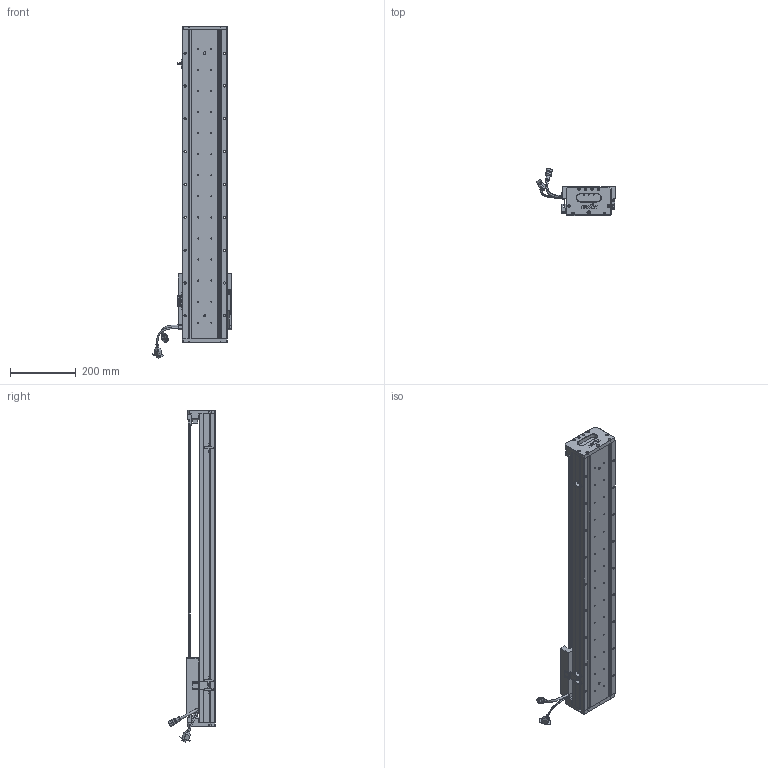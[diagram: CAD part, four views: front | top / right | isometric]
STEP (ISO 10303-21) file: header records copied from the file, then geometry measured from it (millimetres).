
FILE_DESCRIPTION (( 'STEP AP203' ), '1' );
FILE_NAME ('Z2-RY140D-1-L500-B-K.SLDASM_0700.step', '2021-05-17T07:45:16', ( '盈信电脑' ), ( '东莞市道滘镇水果街19号' ), 'SwSTEP 2.0', 'SolidWorks 2016', '' );
FILE_SCHEMA (( 'CONFIG_CONTROL_DESIGN' ));
Length unit declared in the file: millimetre
Products named in the file (36): SCREW-M1.6; 覜茼ん672; SCREW-M1.7-1; Z-140詩湍傷裔啣; LABEL; SCALE; HOLDER0; SHIELDPLATE; 080黍杅芛假蚾釱21遴; LABEL-Part-1; SEAL; Z-RY140感应器672光电感应片; 140蚥薯蝶輸; SCREW-M1.7; Z2-RY140圉猾敕臏賑輸(21遴); 榋妏寠巭燃_暯_M2_2; 140雄赽晤鎢ん堤盄; Z2-RY140-L500詩湍100mm遵_0700; SCALE-Part-1; HARNESS-Part-2; Z2-RY140D-1-L500-B-K.SLDASM_0700; HARNESS; COVER-Part-1; Z-RY140詩湍狟揤裔; SCALE-Part-2; 140-Z-臏賑輸盄裔(21遴); Z2-RY140-L500直线电机模组底座_0700; PSLH080_PSLF2; Z-RY140詩湍奻揤裔; SCREW-M1.6-1; SCREW-M1.6-3; SCREW-M1.6-2; HARNESS-Part-1; SEAL-Part-1; PBU_SHEET; COVER
Assembly tree (41 placements, depth 4):
  Z2-RY140D-1-L500-B-K.SLDASM_0700
    Z2-RY140-L500直线电机模组底座_0700
    Z-RY140感应器672光电感应片
    Z2-RY140圉猾敕臏賑輸(21遴)
    覜茼ん672  x3
    Z2-RY140-L500詩湍100mm遵_0700
    PSLH080_PSLF2
      SCALE
        SCALE-Part-1
        SCALE-Part-2
      HARNESS
        HARNESS-Part-1
        HARNESS-Part-2
      LABEL
        LABEL-Part-1
      COVER
        COVER-Part-1
      SEAL
        SEAL-Part-1
      榋妏寠巭燃_暯_M2_2
      SHIELDPLATE
      SCREW-M1.7
      SCREW-M1.7-1
      PBU_SHEET
      SCREW-M1.6
      SCREW-M1.6-1
      SCREW-M1.6-2
      SCREW-M1.6-3
      HOLDER0
    080黍杅芛假蚾釱21遴
    140-Z-臏賑輸盄裔(21遴)
    Z-140詩湍傷裔啣  x2
    Z-RY140詩湍狟揤裔  x2
    Z-RY140詩湍奻揤裔  x2
    140蚥薯蝶輸  x2
    140雄赽晤鎢ん堤盄
Bounding box: 239.84 x 143.77 x 1010.88 mm (x, y, z)
Volume: 3670810.2 mm3; surface area: 962976.2 mm2
Topology: 36 solids, 36 shells, 2876 faces, 7564 edges, 4789 vertices
Faces by surface type: cylinder 1338, plane 1128, cone 278, torus 79, bspline 53
Entity records: 83828 total; most frequent: CARTESIAN_POINT 21049, ORIENTED_EDGE 12280, DIRECTION 12216, EDGE_CURVE 6140, AXIS2_PLACEMENT_3D 4492, VERTEX_POINT 3957, VECTOR 3232, LINE 3232
